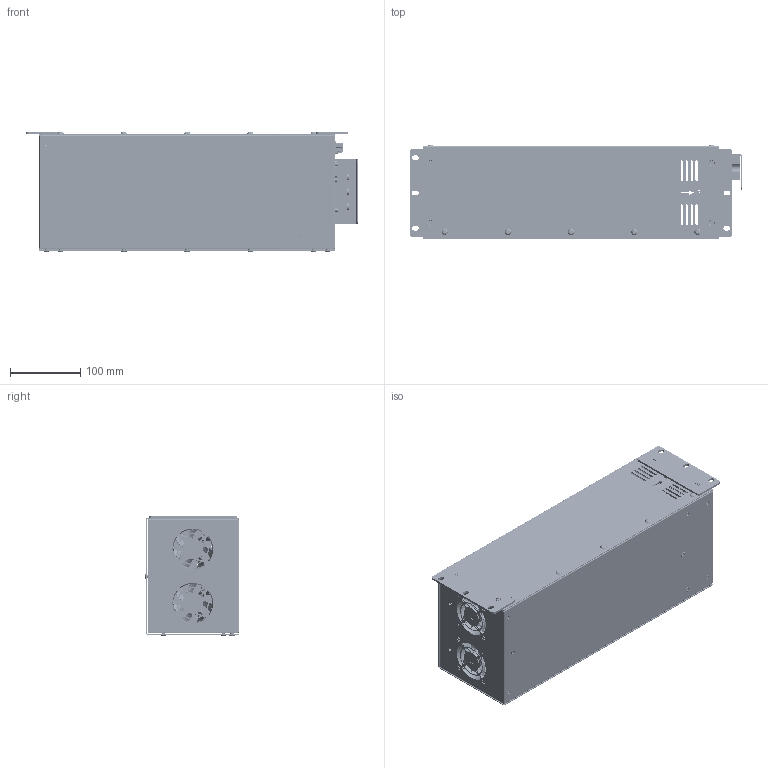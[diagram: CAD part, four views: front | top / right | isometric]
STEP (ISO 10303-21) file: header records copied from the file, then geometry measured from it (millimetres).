
FILE_DESCRIPTION(/* description */ (''),/* implementation_level */ '2;1');
FILE_NAME(/* name */ '',/* time_stamp */ '2026-06-10T09:35:39+09:00',/* author */ ('Administrator'),/* organization */ (''),/* preprocessor_version */ 'ST-DEVELOPER v20.1',/* originating_system */ 'Autodesk Inventor 2026',/* authorisation */ '');
FILE_SCHEMA (('AUTOMOTIVE_DESIGN { 1 0 10303 214 3 1 1 }'));
Products named in the file (1): VX2COM_OLED_VER_2026.06.09_단순화_1
Bounding box: 471 x 134.64 x 171.54 mm (x, y, z)
Volume: 595561.4 mm3; surface area: 729625.3 mm2
Topology: 14 solids, 14 shells, 6979 faces, 18541 edges, 12047 vertices
Faces by surface type: plane 4136, cylinder 1330, bspline 1301, torus 126, cone 62, sphere 24
Full cylindrical faces by diameter (mm): 0.013 x9, 0.6 x3, 0.609 x1, 0.61 x27, 0.635 x9, 0.7 x18, 0.75 x18, 0.85 x3, 0.9 x22, 1 x5, 1.397 x9, 1.5 x4, 2.1 x4, 2.286 x9, 2.5 x4, 2.8 x12, 2.957 x12, 3 x6, 3.048 x4, 3.4 x5, 3.6 x12, 3.783 x2, 3.8 x16, 3.9 x2, 4 x26, 4.3 x8, 4.5 x7, 5 x25, 5.3 x10, 5.4 x6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
Entity records: 247081 total; most frequent: CARTESIAN_POINT 71462, ORIENTED_EDGE 37046, DIRECTION 30944, EDGE_CURVE 18523, LINE 12102, VECTOR 12102, VERTEX_POINT 12047, AXIS2_PLACEMENT_3D 9421
